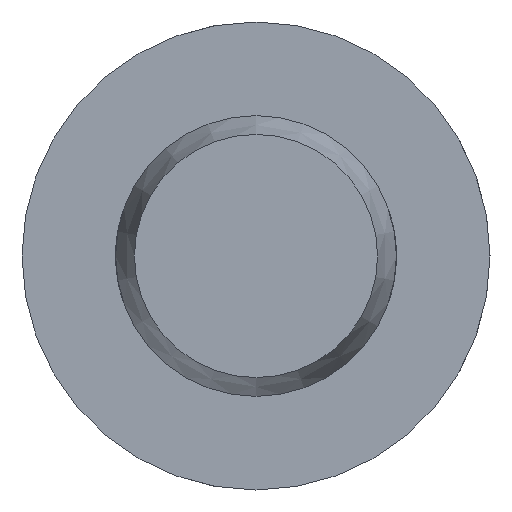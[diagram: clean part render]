
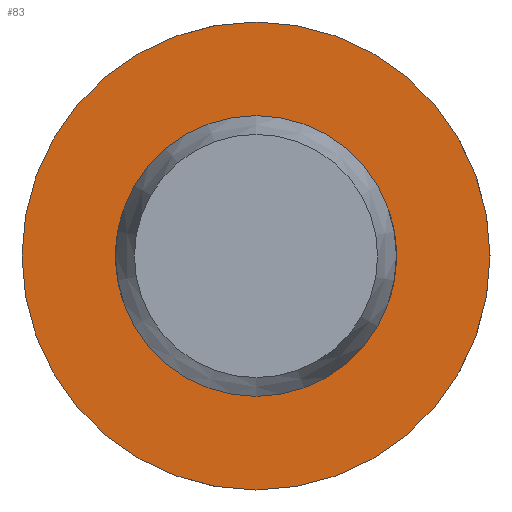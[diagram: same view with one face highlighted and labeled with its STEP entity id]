
A CAD part, left-side view. The second image highlights one B-rep face of the part: STEP entity #83.
In plain terms, the highlighted planar face has unit normal (-1, 0, 0).
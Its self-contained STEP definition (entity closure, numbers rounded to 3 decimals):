
#83 = ADVANCED_FACE( '', ( #129, #130 ), #131, .F. );
#129 = FACE_OUTER_BOUND( '', #208, .T. );
#130 = FACE_BOUND( '', #209, .T. );
#131 = PLANE( '', #210 );
#208 = EDGE_LOOP( '', ( #325 ) );
#209 = EDGE_LOOP( '', ( #326 ) );
#210 = AXIS2_PLACEMENT_3D( '', #327, #328, #329 );
#325 = ORIENTED_EDGE( '', *, *, #493, .F. );
#326 = ORIENTED_EDGE( '', *, *, #483, .T. );
#327 = CARTESIAN_POINT( '', ( 32., 3., 0. ) );
#328 = DIRECTION( '', ( 1., 0., 0. ) );
#329 = DIRECTION( '', ( 0., 0., -1. ) );
#483 = EDGE_CURVE( '', #554, #554, #555, .T. );
#493 = EDGE_CURVE( '', #572, #572, #573, .T. );
#554 = VERTEX_POINT( '', #741 );
#555 = CIRCLE( '', #742, 3. );
#572 = VERTEX_POINT( '', #850 );
#573 = CIRCLE( '', #851, 5. );
#741 = CARTESIAN_POINT( '', ( 32., 0., -3. ) );
#742 = AXIS2_PLACEMENT_3D( '', #914, #915, #916 );
#850 = CARTESIAN_POINT( '', ( 32., 0., -5. ) );
#851 = AXIS2_PLACEMENT_3D( '', #935, #936, #937 );
#914 = CARTESIAN_POINT( '', ( 32., 0., 0. ) );
#915 = DIRECTION( '', ( 1., 0., 0. ) );
#916 = DIRECTION( '', ( 0., 0., -1. ) );
#935 = CARTESIAN_POINT( '', ( 32., 0., 0. ) );
#936 = DIRECTION( '', ( 1., 0., 0. ) );
#937 = DIRECTION( '', ( 0., 0., -1. ) );
